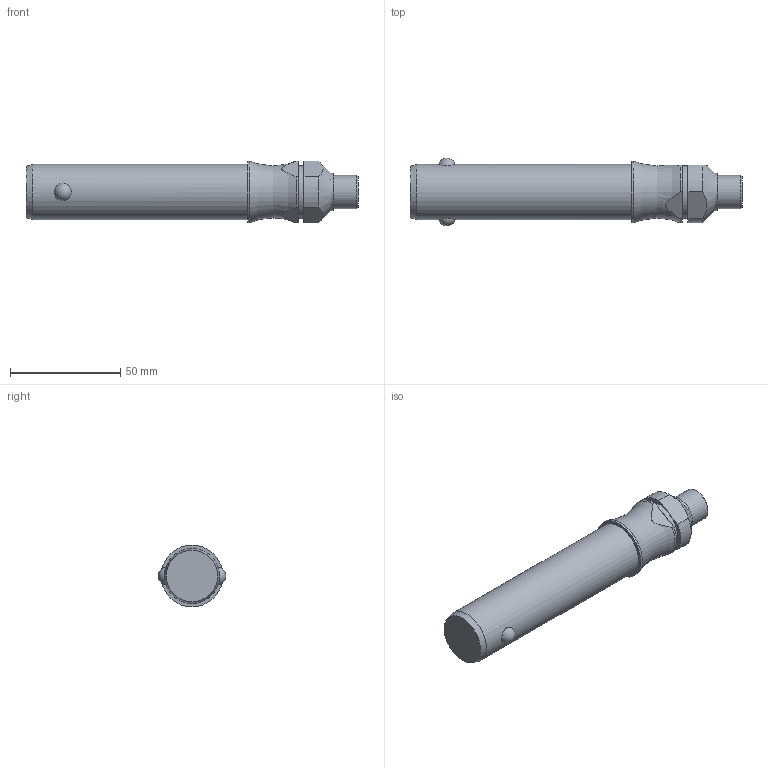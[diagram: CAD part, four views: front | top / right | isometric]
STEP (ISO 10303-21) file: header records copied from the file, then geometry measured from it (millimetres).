
FILE_DESCRIPTION( ( 'STEP AP203' ), '1' );
FILE_NAME( 'C:/Temp/Ganter_Step_05_03_2020/data/3_1/gn113_3/Stainless Steel-Ball lock pin GN 113.3-25-80 (deactivated).stp', '2020-03-12T08:19:10', ( 'License CC BY-ND 4.0' ), ( 'CADENAS' ), ' ', 'PARTsolutions', ' ' );
FILE_SCHEMA( ( 'CONFIG_CONTROL_DESIGN' ) );
Length unit declared in the file: millimetre
Products named in the file (1): _Stainless Steel-Ball lock pin GN 113.3-25-80 (deactivated)
Bounding box: 150.6 x 30.74 x 28 mm (x, y, z)
Volume: 70208.7 mm3; surface area: 12679.1 mm2
Topology: 1 solids, 1 shells, 29 faces, 62 edges, 40 vertices
Faces by surface type: plane 11, cylinder 11, cone 4, sphere 2, torus 1
Full cylindrical faces by diameter (mm): 15 x1, 17 x1, 24 x1, 25 x1, 28 x1
Entity records: 1006 total; most frequent: CARTESIAN_POINT 376, DIRECTION 126, ORIENTED_EDGE 100, AXIS2_PLACEMENT_3D 54, EDGE_CURVE 50, EDGE_LOOP 44, VERTEX_POINT 38, FACE_OUTER_BOUND 35
